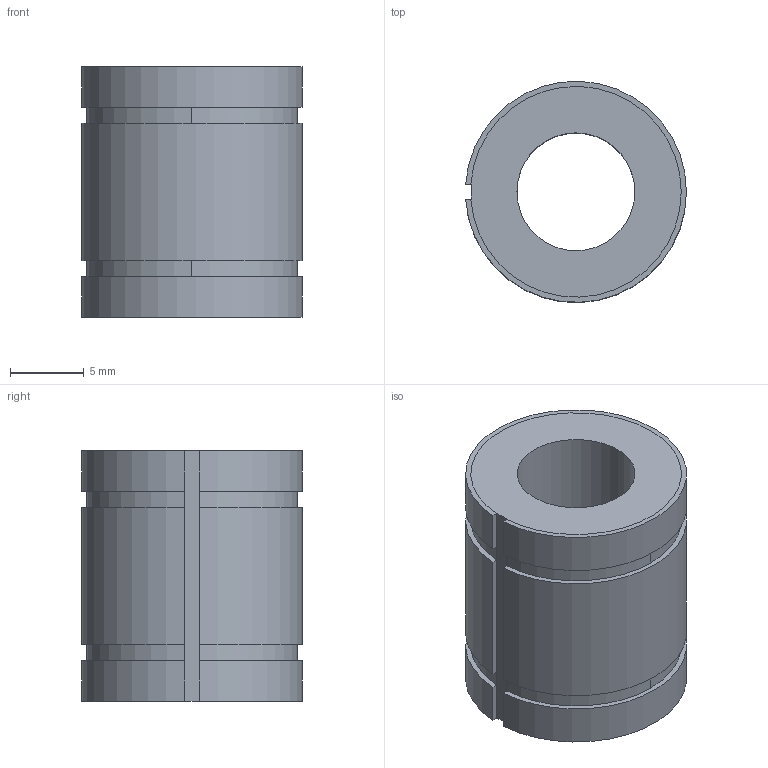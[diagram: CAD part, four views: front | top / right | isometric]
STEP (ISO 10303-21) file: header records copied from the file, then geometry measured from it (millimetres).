
FILE_DESCRIPTION((''),'2;1');
FILE_NAME('C:\Documents and Settings\ｿﾀﾀ蠑ｷ1\ｹﾙﾅﾁ ﾈｭｸ饅\ｺﾎﾇｰﾆﾄﾀﾏ\ﾁｦﾇｰ\LM__UUAJ\LM8SUUAJ.stp','2005-06-14T16:22:33',('ｿﾀﾀ蠑ｷ1'),(''),'Autodesk Inventor 9','Autodesk Inventor 9','');
FILE_SCHEMA(('AUTOMOTIVE_DESIGN { 1 0 10303 214 1 1 1 1 }'));
Length unit declared in the file: millimetre
Products named in the file (1): LM__AJ
Bounding box: 14.98 x 14.99 x 17 mm (x, y, z)
Volume: 2108.3 mm3; surface area: 1550.1 mm2
Topology: 1 solids, 1 shells, 25 faces, 70 edges, 47 vertices
Faces by surface type: cylinder 14, plane 11
Entity records: 850 total; most frequent: DIRECTION 153, CARTESIAN_POINT 143, ORIENTED_EDGE 140, EDGE_CURVE 70, AXIS2_PLACEMENT_3D 57, VERTEX_POINT 47, VECTOR 39, LINE 39
